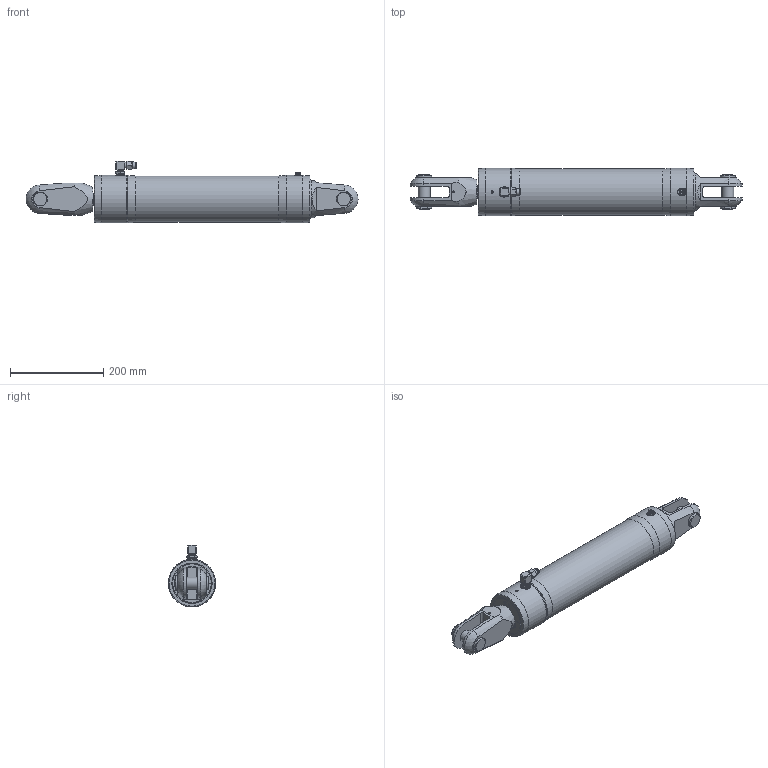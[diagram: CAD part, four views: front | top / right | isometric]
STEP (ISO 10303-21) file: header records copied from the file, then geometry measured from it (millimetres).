
FILE_DESCRIPTION(/* description */ (''),/* implementation_level */ '2;1');
FILE_NAME(/* name */ 'Q:\AA BRAND HYDRAULICS\HYDRAULICS FAMILY DIRECTORY\HYDRAULICS\CYLINDERS\RAMS\ALUMINIUM - STANDARD SINGLE ACTING (-0006 To -0260)\RSA-0040-S0300-NP-71\RSA-0040-S0300-NP-71 (Closed).stp',/* time_stamp */ '2017-11-30T11:42:30+00:00',/* author */ ('Lorena'),/* organization */ (''),/* preprocessor_version */ 'ST-DEVELOPER v16.13',/* originating_system */ 'Autodesk Inventor 2018',/* authorisation */ '');
FILE_SCHEMA (('AUTOMOTIVE_DESIGN { 1 0 10303 214 3 1 1 }'));
Products named in the file (1): RSA-0040-S0300-NP-71 (Closed)
Bounding box: 712.74 x 102.2 x 133 mm (x, y, z)
Volume: 4266488.9 mm3; surface area: 247885.3 mm2
Topology: 1 solids, 4 shells, 1613 faces, 4273 edges, 2818 vertices
Faces by surface type: plane 894, bspline 573, cylinder 81, cone 56, torus 5, sphere 4
Full cylindrical faces by diameter (mm): 4 x1, 4.134 x1, 4.2 x2, 5 x1, 5.1 x1, 5.9 x1, 7 x1, 8 x2, 9 x3, 10 x2, 11.157 x1, 11.8 x1, 12 x1, 12.157 x1, 12.77 x1, 13 x1, 13.157 x2, 14.5 x2, 16 x2, 18.3 x2, 22 x1, 25.4 x2, 26 x1, 31.75 x2, 62 x1, 99.2 x1, 102.2 x4
Entity records: 56375 total; most frequent: CARTESIAN_POINT 19114, ORIENTED_EDGE 8304, DIRECTION 5285, EDGE_CURVE 4152, VERTEX_POINT 2783, LINE 2681, VECTOR 2681, EDGE_LOOP 1854
